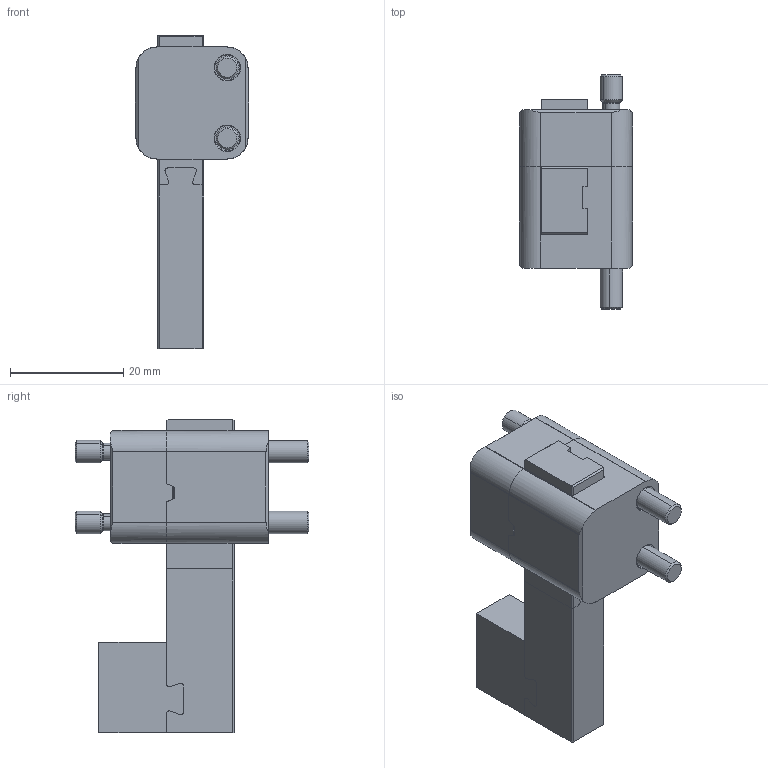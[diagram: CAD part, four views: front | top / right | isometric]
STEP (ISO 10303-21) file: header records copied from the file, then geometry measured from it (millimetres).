
FILE_DESCRIPTION (( 'STEP AP214' ), '1' );
FILE_NAME ('UU081220.STEP', '2013-06-11T08:07:56', ( '' ), ( '' ), 'SwSTEP 2.0', 'SolidWorks 2011', '' );
FILE_SCHEMA (( 'AUTOMOTIVE_DESIGN' ));
Length unit declared in the file: millimetre
Products named in the file (11): 7UU083200; UU081220; 7UU081200; 1TOA-M4x16; 9GU102020; 3MUELLE-7TO-M6-1; 8UI081216; 7TO-M6x9; 1BOLAØ3,5; 8SU082020; 1TOA-M4x25
Assembly tree (12 placements, depth 2):
  UU081220
    1TOA-M4x16  x2
    8SU082020
    7UU081200
    3MUELLE-7TO-M6-1
    1BOLAØ3,5
    1TOA-M4x25  x2
    8UI081216
    9GU102020
    7TO-M6x9
    7UU083200
Bounding box: 20 x 41.4 x 55.5 mm (x, y, z)
Volume: 15578.4 mm3; surface area: 10588.9 mm2
Topology: 12 solids, 13 shells, 419 faces, 1041 edges, 664 vertices
Faces by surface type: plane 191, cylinder 149, cone 57, torus 18, bspline 2, sphere 2
Entity records: 13979 total; most frequent: CARTESIAN_POINT 3428, DIRECTION 2001, ORIENTED_EDGE 1868, EDGE_CURVE 934, AXIS2_PLACEMENT_3D 718, VERTEX_POINT 601, LINE 565, VECTOR 565
